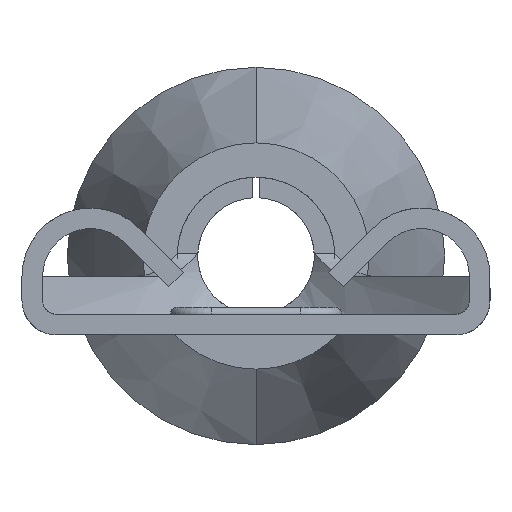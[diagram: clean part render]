
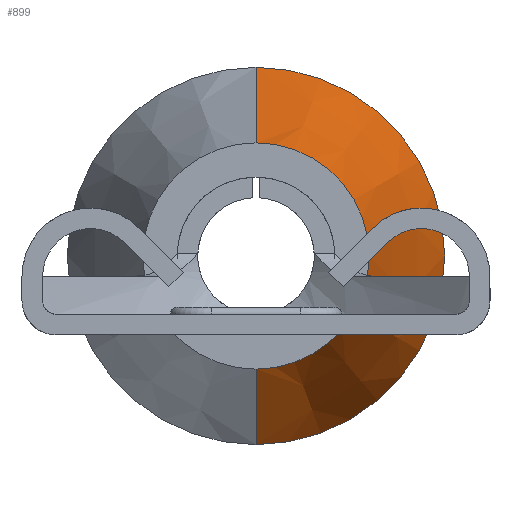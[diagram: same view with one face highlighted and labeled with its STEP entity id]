
A CAD part, front view. The second image highlights one B-rep face of the part: STEP entity #899.
In plain terms, the highlighted conical face has half-angle 18.435 degrees and reference radius 1.65 mm.
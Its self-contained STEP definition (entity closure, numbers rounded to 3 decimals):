
#60 = CARTESIAN_POINT ( 'NONE',  ( 0., 7.3, -2.75 ) ) ;
#217 = LINE ( 'NONE', #1076, #1460 ) ;
#355 = EDGE_CURVE ( 'NONE', #657, #2419, #745, .T. ) ;
#518 = DIRECTION ( 'NONE',  ( 0., -1., 0. ) ) ;
#575 = EDGE_CURVE ( 'NONE', #657, #1560, #2191, .T. ) ;
#657 = VERTEX_POINT ( 'NONE', #1188 ) ;
#745 = LINE ( 'NONE', #1383, #2155 ) ;
#825 = FACE_OUTER_BOUND ( 'NONE', #1989, .T. ) ;
#899 = ADVANCED_FACE ( 'NONE', ( #825 ), #1984, .T. ) ;
#908 = DIRECTION ( 'NONE',  ( 0., -1., 0. ) ) ;
#962 = ORIENTED_EDGE ( 'NONE', *, *, #2365, .T. ) ;
#1076 = CARTESIAN_POINT ( 'NONE',  ( 0., 4., 1.65 ) ) ;
#1177 = AXIS2_PLACEMENT_3D ( 'NONE', #2392, #908, #2650 ) ;
#1188 = CARTESIAN_POINT ( 'NONE',  ( 0., 4., -1.65 ) ) ;
#1383 = CARTESIAN_POINT ( 'NONE',  ( 0., 4., -1.65 ) ) ;
#1453 = AXIS2_PLACEMENT_3D ( 'NONE', #2877, #3123, #2319 ) ;
#1460 = VECTOR ( 'NONE', #1566, 1000. ) ;
#1483 = CARTESIAN_POINT ( 'NONE',  ( 0., 4., 1.65 ) ) ;
#1560 = VERTEX_POINT ( 'NONE', #1483 ) ;
#1566 = DIRECTION ( 'NONE',  ( 0., 0.949, 0.316 ) ) ;
#1674 = ORIENTED_EDGE ( 'NONE', *, *, #2500, .F. ) ;
#1751 = CIRCLE ( 'NONE', #1981, 2.75 ) ;
#1981 = AXIS2_PLACEMENT_3D ( 'NONE', #2006, #518, #2252 ) ;
#1984 = CONICAL_SURFACE ( 'NONE', #1453, 1.65, 0.322 ) ;
#1989 = EDGE_LOOP ( 'NONE', ( #2146, #3080, #962, #1674 ) ) ;
#2006 = CARTESIAN_POINT ( 'NONE',  ( 0., 7.3, 0. ) ) ;
#2109 = VERTEX_POINT ( 'NONE', #2634 ) ;
#2146 = ORIENTED_EDGE ( 'NONE', *, *, #575, .F. ) ;
#2155 = VECTOR ( 'NONE', #3126, 1000. ) ;
#2191 = CIRCLE ( 'NONE', #1177, 1.65 ) ;
#2252 = DIRECTION ( 'NONE',  ( 0., 0., -1. ) ) ;
#2319 = DIRECTION ( 'NONE',  ( 0., 0., 1. ) ) ;
#2365 = EDGE_CURVE ( 'NONE', #2419, #2109, #1751, .T. ) ;
#2392 = CARTESIAN_POINT ( 'NONE',  ( 0., 4., 0. ) ) ;
#2419 = VERTEX_POINT ( 'NONE', #60 ) ;
#2500 = EDGE_CURVE ( 'NONE', #1560, #2109, #217, .T. ) ;
#2634 = CARTESIAN_POINT ( 'NONE',  ( 0., 7.3, 2.75 ) ) ;
#2650 = DIRECTION ( 'NONE',  ( 0., 0., -1. ) ) ;
#2877 = CARTESIAN_POINT ( 'NONE',  ( 0., 4., 0. ) ) ;
#3080 = ORIENTED_EDGE ( 'NONE', *, *, #355, .T. ) ;
#3123 = DIRECTION ( 'NONE',  ( 0., 1., 0. ) ) ;
#3126 = DIRECTION ( 'NONE',  ( 0., 0.949, -0.316 ) ) ;
